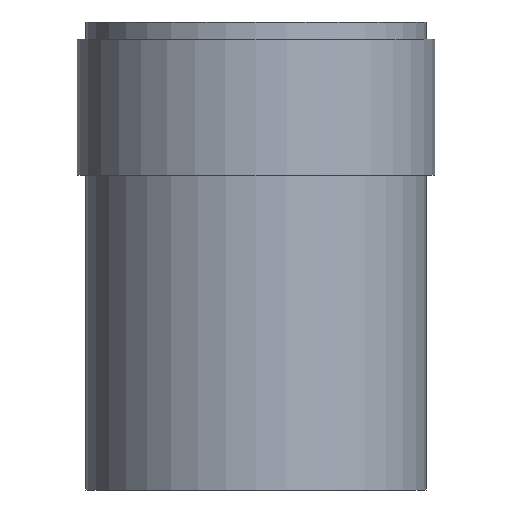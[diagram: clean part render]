
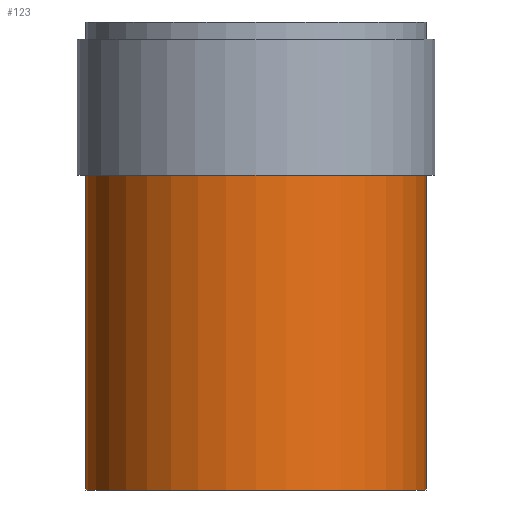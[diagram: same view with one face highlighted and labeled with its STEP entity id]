
A CAD part, front view. The second image highlights one B-rep face of the part: STEP entity #123.
In plain terms, the highlighted cylindrical face has radius 20 mm (diameter 40 mm), a full revolution.
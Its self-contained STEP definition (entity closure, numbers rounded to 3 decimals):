
#24=CYLINDRICAL_SURFACE($,#145,20.);
#33=FACE_BOUND($,#60,.T.);
#44=FACE_OUTER_BOUND($,#59,.T.);
#59=EDGE_LOOP($,(#109));
#60=EDGE_LOOP($,(#110));
#70=CIRCLE($,#138,20.);
#74=CIRCLE($,#146,20.);
#80=VERTEX_POINT($,#206);
#84=VERTEX_POINT($,#218);
#90=EDGE_CURVE($,#80,#80,#70,.T.);
#94=EDGE_CURVE($,#84,#84,#74,.T.);
#109=ORIENTED_EDGE($,*,*,#90,.T.);
#110=ORIENTED_EDGE($,*,*,#94,.F.);
#123=ADVANCED_FACE($,(#44,#33),#24,.T.);
#138=AXIS2_PLACEMENT_3D($,#207,#169,#170);
#145=AXIS2_PLACEMENT_3D($,#217,#183,#184);
#146=AXIS2_PLACEMENT_3D($,#219,#185,#186);
#169=DIRECTION('center_axis',(0.,0.,-1.));
#170=DIRECTION('ref_axis',(-1.,0.,0.));
#183=DIRECTION('center_axis',(0.,0.,1.));
#184=DIRECTION('ref_axis',(-1.,0.,0.));
#185=DIRECTION('center_axis',(0.,0.,-1.));
#186=DIRECTION('ref_axis',(-1.,0.,0.));
#206=CARTESIAN_POINT('',(-20.,0.,37.));
#207=CARTESIAN_POINT('Origin',(0.,0.,37.));
#217=CARTESIAN_POINT('Origin',(0.,0.,0.));
#218=CARTESIAN_POINT('',(20.,0.,0.));
#219=CARTESIAN_POINT('Origin',(0.,0.,0.));
